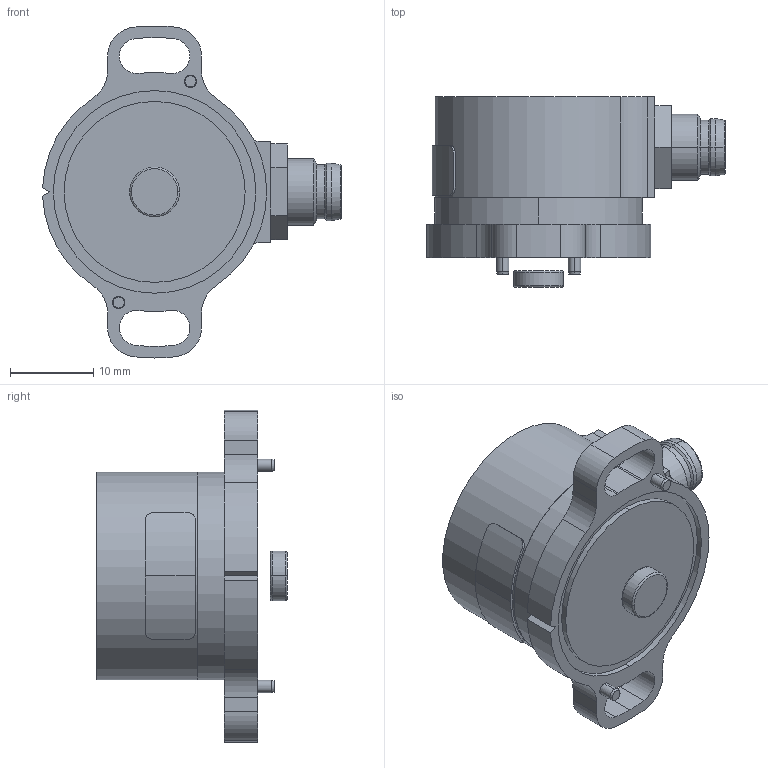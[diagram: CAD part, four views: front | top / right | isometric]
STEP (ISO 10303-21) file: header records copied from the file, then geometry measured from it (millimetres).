
FILE_DESCRIPTION (( 'STEP AP203' ), '1' );
FILE_NAME ('HTx Kit M8 R P.STEP', '2022-07-29T10:29:15', ( '' ), ( '' ), 'SwSTEP 2.0', 'SolidWorks 2022', '' );
FILE_SCHEMA (( 'CONFIG_CONTROL_DESIGN' ));
Length unit declared in the file: millimetre
Products named in the file (1): HTx Kit M8 R P
Bounding box: 35.99 x 22.9 x 39.98 mm (x, y, z)
Surface area: 4095.3 mm2 (no closed solid volume)
Topology: 0 solids, 15 shells, 148 faces, 387 edges, 245 vertices
Faces by surface type: cylinder 78, plane 35, bspline 19, cone 12, torus 4
Entity records: 4934 total; most frequent: CARTESIAN_POINT 1243, DIRECTION 824, ORIENTED_EDGE 693, EDGE_CURVE 371, AXIS2_PLACEMENT_3D 338, VERTEX_POINT 245, CIRCLE 208, EDGE_LOOP 165
